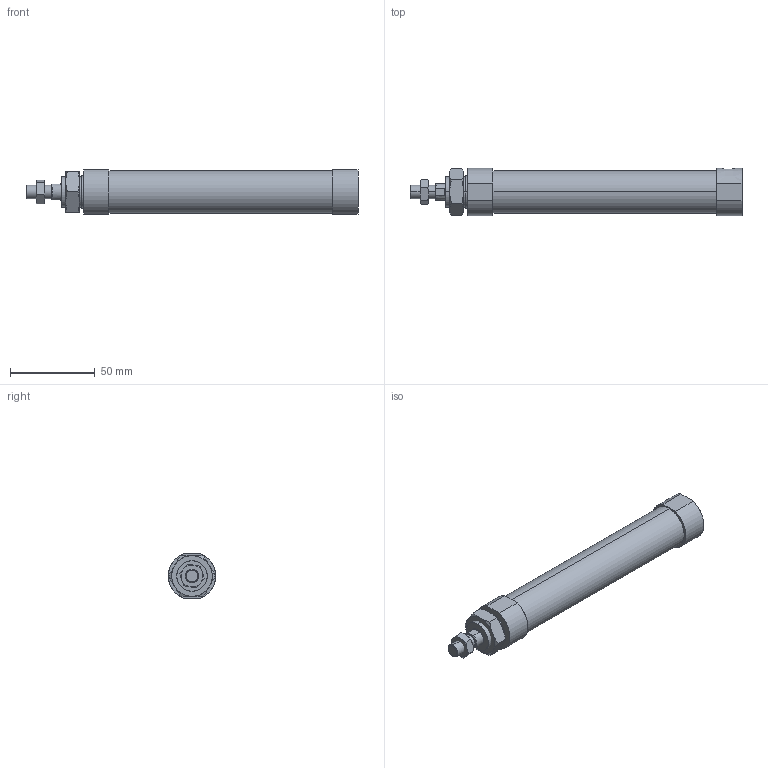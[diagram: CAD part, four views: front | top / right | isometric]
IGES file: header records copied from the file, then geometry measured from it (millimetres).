
Start section: SolidWorks IGES file using analytic representation for surfaces
Global section: file name: C:\Users\Toshiba\Desktop\JGND1-20-50-N.IGS; native system: SolidWorks 2014; preprocessor: SolidWorks 2014; author: Toshiba; date: 160804.101457; units: millimetre
Bounding box: 196 x 28 x 26 mm (x, y, z)
Surface area: 18213.3 mm2 (no closed solid volume)
Topology: 0 solids, 0 shells, 81 faces, 1362 edges, 1362 vertices
Faces by surface type: bspline 57, revolution 24
